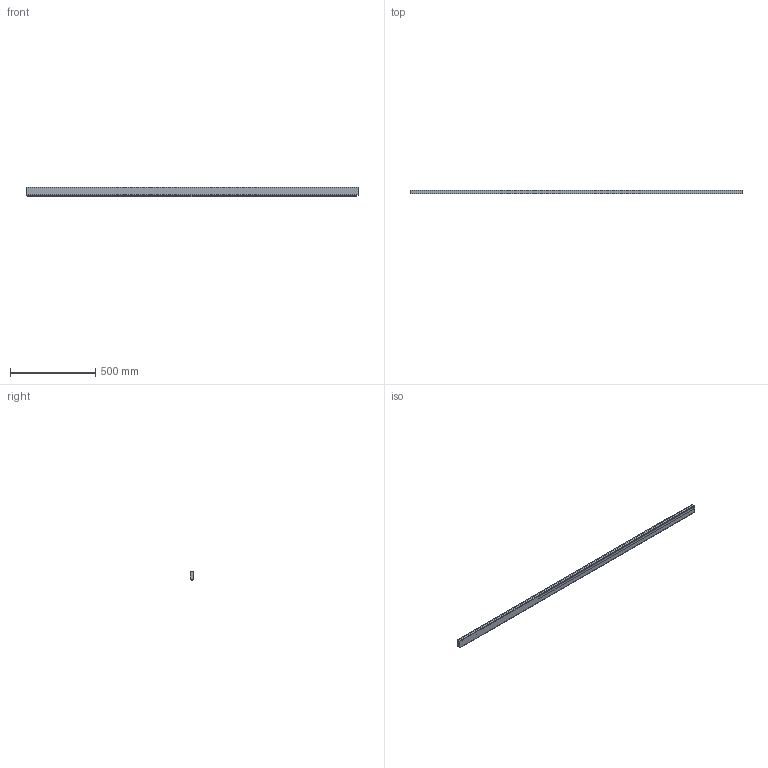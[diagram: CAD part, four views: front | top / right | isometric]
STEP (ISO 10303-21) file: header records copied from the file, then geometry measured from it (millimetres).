
FILE_DESCRIPTION( ( '' ), '1' );
FILE_NAME( 'D:/temp/hettich_stp/hettich/prodecor_handles/new_modern/115315.stp', '2013-02-26T12:41:58', ( '' ), ( '' ), ' ', ' ', ' ' );
FILE_SCHEMA( ( 'automotive_design' ) );
Length unit declared in the file: millimetre
Products named in the file (1): 1
Bounding box: 1950 x 21.8 x 56.5 mm (x, y, z)
Volume: 731548.7 mm3; surface area: 421300.8 mm2
Topology: 1 solids, 1 shells, 107 faces, 311 edges, 206 vertices
Faces by surface type: cylinder 54, plane 53
Entity records: 7030 total; most frequent: DIRECTION 639, STYLED_ITEM 625, PRESENTATION_STYLE_ASSIGNMENT 625, CARTESIAN_POINT 625, COLOUR_RGB 625, ORIENTED_EDGE 622, EDGE_CURVE 311, CURVE_STYLE 311
